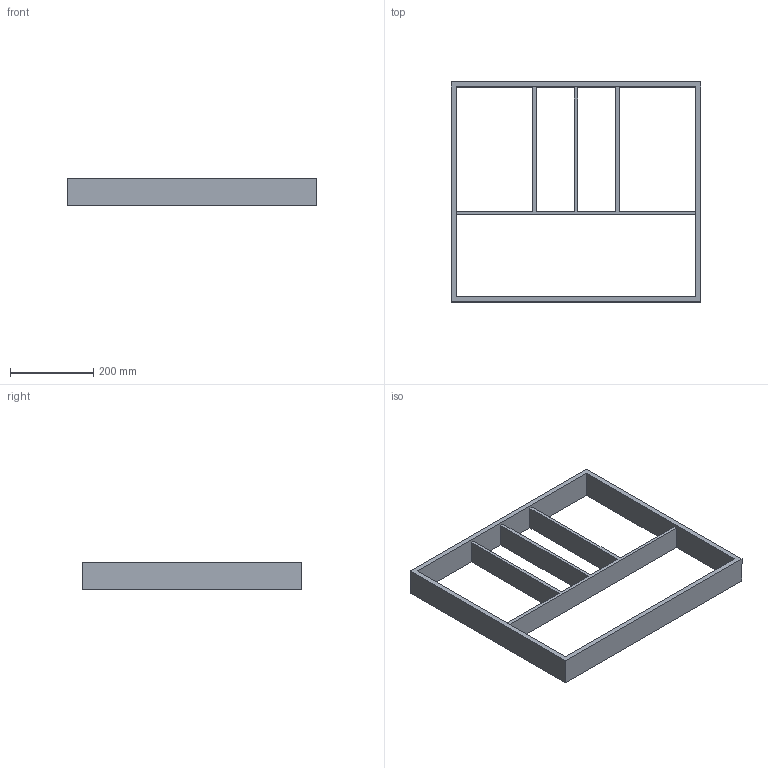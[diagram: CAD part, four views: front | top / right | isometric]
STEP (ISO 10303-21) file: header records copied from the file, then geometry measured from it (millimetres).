
FILE_DESCRIPTION (( 'STEP AP214' ), '1' );
FILE_NAME ('Vario Multi NL550_ZE600_16 mm_Buche.step', '2010-10-07T06:24:24', ( 'grass' ), ( '' ), 'SwSTEP 2.0', 'SolidWorks 2010', '' );
FILE_SCHEMA (( 'AUTOMOTIVE_DESIGN' ));
Length unit declared in the file: millimetre
Products named in the file (1): Vario Multi NL550_ZE600_16 mm_Buche
Bounding box: 600 x 529 x 65 mm (x, y, z)
Volume: 2395214.4 mm3; surface area: 528104 mm2
Topology: 1 solids, 1 shells, 22 faces, 72 edges, 48 vertices
Faces by surface type: plane 22
Entity records: 830 total; most frequent: ORIENTED_EDGE 144, CARTESIAN_POINT 143, DIRECTION 118, EDGE_CURVE 72, VECTOR 72, LINE 72, VERTEX_POINT 48, EDGE_LOOP 28
